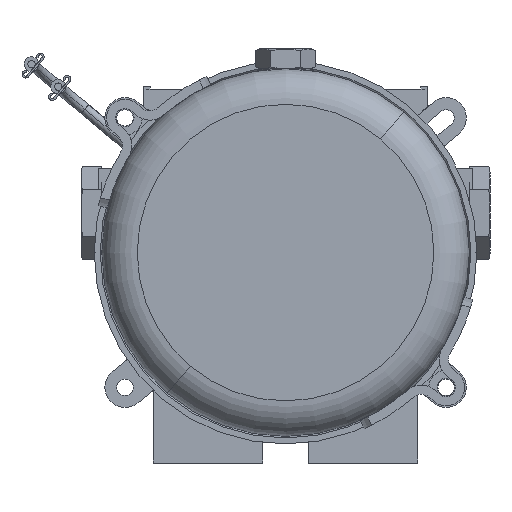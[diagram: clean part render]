
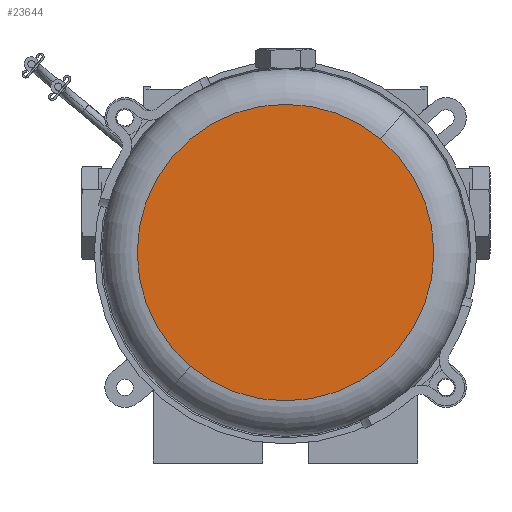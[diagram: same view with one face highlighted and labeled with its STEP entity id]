
A CAD part, front view. The second image highlights one B-rep face of the part: STEP entity #23644.
In plain terms, the highlighted planar face has unit normal (0, -1, 0).
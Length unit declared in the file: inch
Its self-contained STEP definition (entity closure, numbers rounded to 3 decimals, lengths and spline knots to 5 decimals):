
#23274=CARTESIAN_POINT('',(0.,-3.203,0.));
#23275=DIRECTION('',(0.,1.,0.));
#23276=DIRECTION('',(-1.,0.,0.));
#23277=AXIS2_PLACEMENT_3D('',#23274,#23275,#23276);
#23545=CARTESIAN_POINT('',(0.,-3.203,0.));
#23546=DIRECTION('',(0.,1.,0.));
#23547=DIRECTION('',(1.,0.,0.));
#23548=AXIS2_PLACEMENT_3D('',#23545,#23546,#23547);
#23597=CARTESIAN_POINT('',(-1.614,-3.203,0.));
#23598=CARTESIAN_POINT('',(1.614,-3.203,0.));
#23599=VERTEX_POINT('',#23597);
#23600=VERTEX_POINT('',#23598);
#23633=CARTESIAN_POINT('',(0.,-3.203,0.));
#23634=DIRECTION('',(0.,-1.,0.));
#23635=DIRECTION('',(-1.,0.,0.));
#23636=AXIS2_PLACEMENT_3D('',#23633,#23634,#23635);
#23637=PLANE('',#23636);
#23639=ORIENTED_EDGE('',*,*,#23638,.T.);
#23641=ORIENTED_EDGE('',*,*,#23640,.T.);
#23642=EDGE_LOOP('',(#23639,#23641));
#23643=FACE_OUTER_BOUND('',#23642,.F.);
#23644=ADVANCED_FACE('',(#23643),#23637,.T.);
#23278=CIRCLE('',#23277,1.614);
#23549=CIRCLE('',#23548,1.614);
#23638=EDGE_CURVE('',#23599,#23600,#23278,.T.);
#23640=EDGE_CURVE('',#23600,#23599,#23549,.T.);
